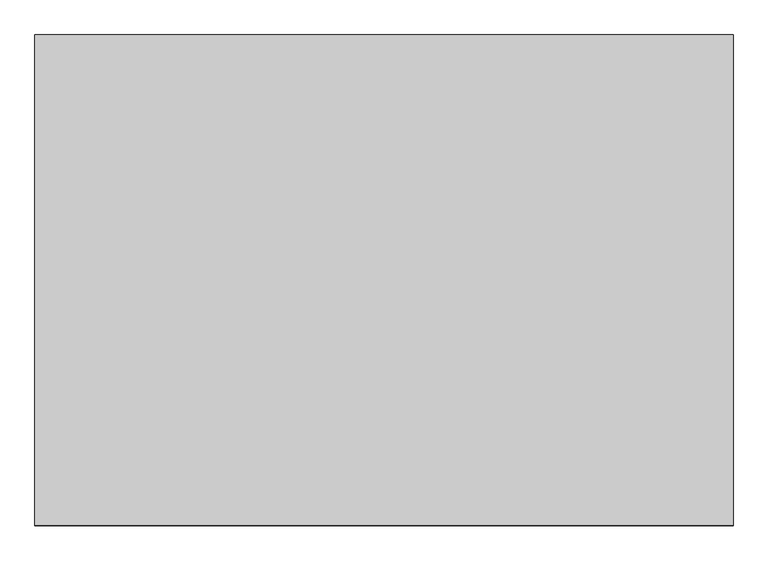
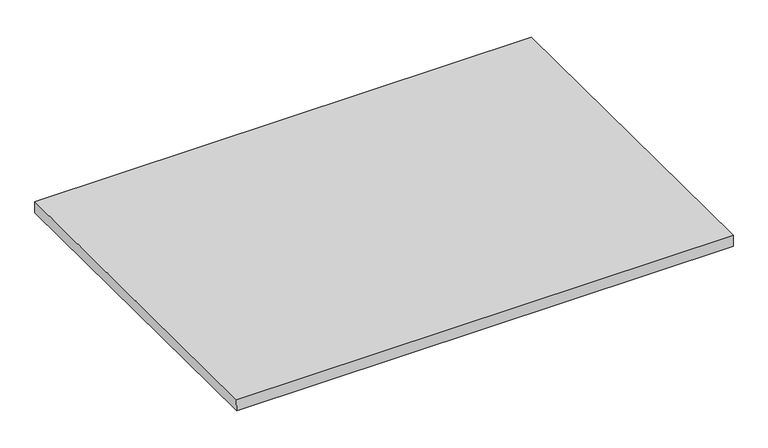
"""IFC4 building model written with IfcOpenShell, lengths in millimetres: proxy geometry, lastra tralicciata_inclinata_senza alleggerimenti : lastra tralicciata_inclinata_due_rompitratta."""

from ifc_helpers import new_model, si_unit, frame, origin, place, context, project, spatial, polyline, outline, extrude, source, transform, mapped, element, save


def generic_models_ed41efe7(model_context):
    return source(origin(), model_context, "Body", "SweptSolid", [
        extrude(outline(polyline([(0.0, -1200.0), (0.0, 0.0), (1706.5, 0.0), (1706.5, -1200.0), (0.0, -1200.0)])), frame((0.0, 599.9853784, -4.1887562), z_axis=(0.0, 0.006981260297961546, 0.9999756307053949), x_axis=(1.0, 0.0, 0.0)), (0.0, 0.0, 1.0), 40.0),
    ])


if __name__ == "__main__":
    model = new_model("IFC4")
    model_context = context("Model", 3, world=origin())
    ifc_project = project(units=[si_unit("LENGTHUNIT", "METRE", prefix="MILLI")], contexts=[model_context])
    site = spatial("IfcSite", under=ifc_project)
    building = spatial("IfcBuilding", under=site)
    placement = place(None, origin())
    generic_models_shape = generic_models_ed41efe7(model_context)
    element("IfcBuildingElementProxy", 1, Name="lastra tralicciata_inclinata_senza alleggerimenti : lastra tralicciata_inclinata_due_rompitratta", ObjectType="lastra tralicciata_inclinata_senza alleggerimenti : lastra tralicciata_inclinata_due_rompitratta", at=placement, inside=building, context=model_context, shape_type="MappedRepresentation", body=[
        mapped(generic_models_shape, transform((0.0, 0.0, 0.0), x_axis=(1.0, 0.0, 0.0), y_axis=(0.0, 1.0, 0.0), z_axis=(0.0, 0.0, 1.0))),
    ])
    save(model, "model.ifc")
